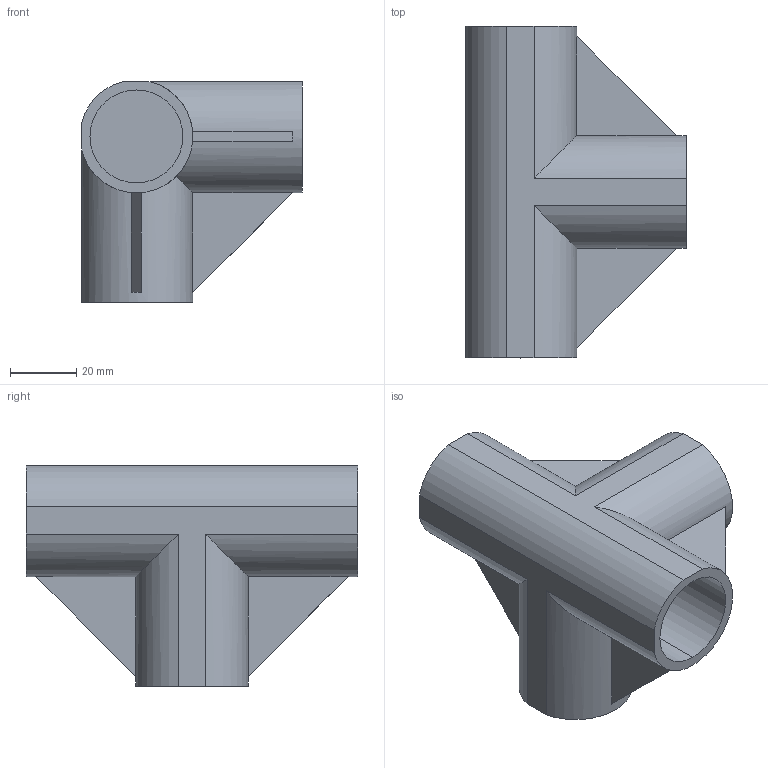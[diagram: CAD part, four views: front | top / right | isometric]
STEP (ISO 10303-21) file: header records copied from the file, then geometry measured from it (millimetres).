
FILE_DESCRIPTION (( 'STEP AP214' ), '1' );
FILE_NAME ('PJ-100A.STEP', '2023-09-12T10:58:09', ( 'catia' ), ( 'HP Inc.' ), 'SwSTEP 2.0', 'SolidWorks 2021', '' );
FILE_SCHEMA (( 'AUTOMOTIVE_DESIGN' ));
Length unit declared in the file: millimetre
Products named in the file (1): PJ-100A
Bounding box: 66.5 x 100 x 66.5 mm (x, y, z)
Volume: 86662.2 mm3; surface area: 35020.9 mm2
Topology: 1 solids, 1 shells, 41 faces, 105 edges, 70 vertices
Faces by surface type: plane 25, cylinder 16
Entity records: 1278 total; most frequent: CARTESIAN_POINT 286, ORIENTED_EDGE 210, DIRECTION 191, EDGE_CURVE 105, VERTEX_POINT 70, AXIS2_PLACEMENT_3D 67, LINE 57, VECTOR 57
